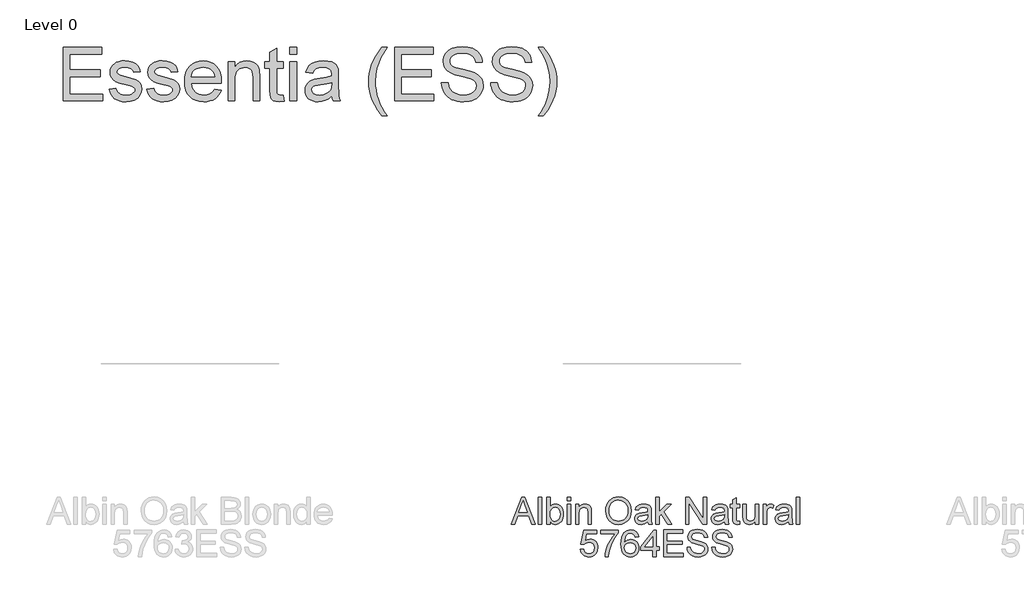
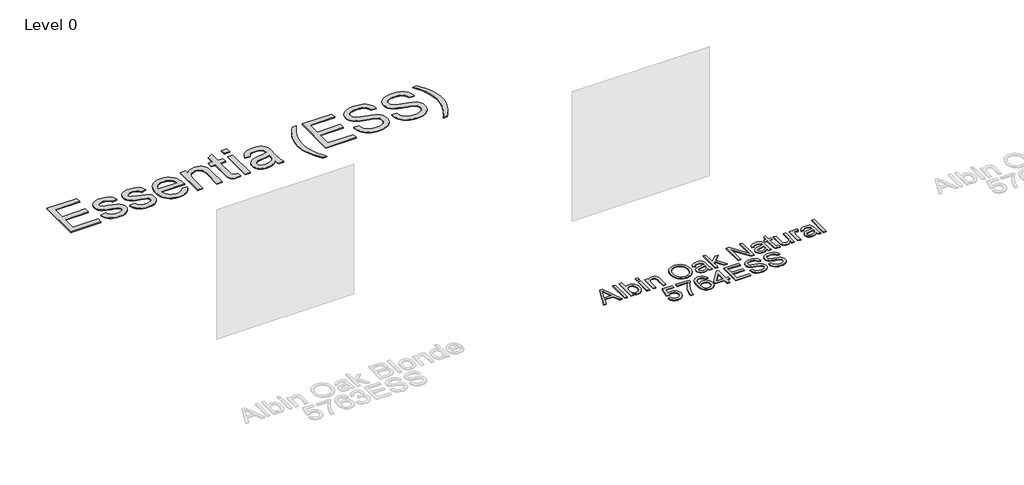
# One storey, part 36 of 43: 2 proxies.
"""IFC4 building model written with IfcOpenShell, lengths in millimetres."""

from ifc_helpers import new_model, si_unit, origin, origin_with_axes, place, context, project, spatial, polyline, outline, extrude, element, save

model = new_model("IFC4")

# Units and contexts
model_context = context("Model", 3, world=origin())
ifc_project = project(units=[si_unit("LENGTHUNIT", "METRE", prefix="MILLI")], contexts=[model_context])

# Site, building, storey
site = spatial("IfcSite", under=ifc_project)
building = spatial("IfcBuilding", under=site)
storey = spatial("IfcBuildingStorey", under=building, Name="Level 0", Elevation=0.0)

# Proxies
placement = place(None, origin())
element("IfcBuildingElementProxy", 1, Name="300mm Arial", ObjectType="300mm Arial", at=placement, inside=storey, context=model_context, shape_type="SweptSolid", body=[
    extrude(outline(polyline([(21163.2002138, -7003.860494), (21283.4976262, -6702.4915635), (21315.5769362, -6702.4915635), (21435.8743486, -7003.860494), (21396.0695167, -7003.860494), (21361.5621856, -6909.6827032), (21237.4388004, -6909.6827032), (21203.0050456, -7003.860494), (21163.2002138, -7003.860494)]), holes=[polyline([(21251.2711634, -6872.0115869), (21347.8033989, -6872.0115869), (21320.6537077, -6797.9201531), (21299.5372812, -6740.1626798), (21280.7752994, -6791.44543), (21251.2711634, -6872.0115869)])]), origin_with_axes(), (0.0, 0.0, 1.0), 10.0),
    extrude(outline(polyline([(21471.4117493, -7003.860494), (21471.4117493, -6702.4915635), (21509.0828656, -6702.4915635), (21509.0828656, -7003.860494), (21471.4117493, -7003.860494)])), origin_with_axes(), (0.0, 0.0, 1.0), 10.0),
    extrude(outline(polyline([(21603.2606564, -7003.860494), (21565.5895401, -7003.860494), (21565.5895401, -6702.4915635), (21603.2606564, -6702.4915635), (21603.2606564, -6814.2541137), (21615.6490826, -6798.3202248), (21629.6377954, -6786.9388755), (21645.226795, -6780.110066), (21662.4160812, -6777.8337961), (21681.8218565, -6779.8847383), (21700.1607739, -6786.0375646), (21716.3843699, -6795.9059992), (21729.4441807, -6809.1037657), (21739.6804972, -6825.5021057), (21747.4336103, -6844.9722603), (21752.3172438, -6866.7048891), (21753.9451216, -6889.8906519), (21752.2597622, -6916.64487), (21747.203684, -6940.1801206), (21738.7768871, -6960.4964038), (21726.9793714, -6977.5937195), (21712.8182138, -6991.1455725), (21697.3004914, -7000.8254675), (21680.4262041, -7006.6334045), (21662.195352, -7008.5693835), (21644.4404472, -7006.0723845), (21628.6996963, -6998.5813874), (21614.9730994, -6986.0963921), (21603.2606564, -6968.6173988), (21603.2606564, -7003.860494)]), holes=[polyline([(21603.2606564, -6891.6564855), (21605.8358303, -6923.0736078), (21613.5613522, -6944.3371872), (21622.6894243, -6955.9576597), (21633.2982213, -6964.2579972), (21645.3877434, -6969.2381997), (21658.9579905, -6970.8982672), (21680.6998164, -6966.0054367), (21699.2778571, -6951.3269451), (21712.0249683, -6926.9547629), (21716.2740053, -6892.9808606), (21712.1997122, -6858.5103177), (21699.9768329, -6834.414047), (21681.9782063, -6820.2321961), (21660.5766712, -6815.5049125), (21638.8348453, -6820.397743), (21620.2568046, -6835.0762346), (21607.5096934, -6859.0069584), (21603.2606564, -6891.6564855)])]), origin_with_axes(), (0.0, 0.0, 1.0), 10.0),
    extrude(outline(polyline([(21796.3251275, -6740.1626798), (21796.3251275, -6702.4915635), (21833.9962438, -6702.4915635), (21833.9962438, -6740.1626798), (21796.3251275, -6740.1626798)])), origin_with_axes(), (0.0, 0.0, 1.0), 10.0),
    extrude(outline(polyline([(21796.3251275, -7003.860494), (21796.3251275, -6782.5426857), (21833.9962438, -6782.5426857), (21833.9962438, -7003.860494), (21796.3251275, -7003.860494)])), origin_with_axes(), (0.0, 0.0, 1.0), 10.0),
    extrude(outline(polyline([(21890.5029182, -7003.860494), (21890.5029182, -6782.5426857), (21928.1740345, -6782.5426857), (21928.1740345, -6813.4447733), (21941.2614365, -6797.8649708), (21956.9791947, -6786.7365404), (21975.3273093, -6780.0594822), (21996.30578, -6777.8337961), (22014.8746237, -6779.6272209), (22031.879969, -6785.0074951), (22046.0618199, -6793.303234), (22056.1601806, -6803.8430532), (22067.4541579, -6831.5445674), (22069.4407207, -6867.964885), (22069.4407207, -7003.860494), (22031.7696044, -7003.860494), (22031.7696044, -6873.0416565), (22027.4285968, -6839.7115477), (22021.4229232, -6829.7879309), (22012.0879176, -6822.0900002), (22000.1225557, -6817.1511844), (21986.2258134, -6815.5049125), (21964.1620907, -6819.2021265), (21945.3541237, -6830.2937687), (21937.8378347, -6839.3482643), (21932.4690568, -6851.7228949), (21928.1740345, -6886.4325611), (21928.1740345, -7003.860494), (21890.5029182, -7003.860494)])), origin_with_axes(), (0.0, 0.0, 1.0), 10.0),
    extrude(outline(polyline([(22229.542965, -6857.1491543), (22232.0537596, -6821.8002931), (22239.5861434, -6790.5073309), (22252.1401165, -6763.2702677), (22269.7156788, -6740.0891034), (22291.2597682, -6721.5800406), (22315.7193223, -6708.3592814), (22343.0943413, -6700.4268258), (22373.3848251, -6697.782674), (22412.9137455, -6702.7490809), (22448.3591757, -6717.6483017), (22477.7897353, -6741.4318727), (22499.2740438, -6773.0513302), (22512.4074311, -6810.9799639), (22516.7852268, -6853.6910636), (22512.1775048, -6896.9723803), (22498.3543388, -6935.4344429), (22476.079084, -6967.1090827), (22446.1150955, -6990.028131), (22410.9731679, -7003.9340704), (22373.1640959, -7008.5693835), (22333.0281702, -7003.4466267), (22297.3804049, -6988.0783564), (22268.0234217, -6963.853327), (22246.7598423, -6932.1602931), (22233.8471843, -6895.6939903), (22229.542965, -6857.1491543)]), holes=[polyline([(22267.2140813, -6857.5170363), (22269.0971772, -6882.4916252), (22274.7464651, -6904.661114), (22284.1619449, -6924.0255025), (22297.3436167, -6940.5847908), (22313.3671768, -6953.8469367), (22331.3083219, -6963.3198981), (22351.1670518, -6969.0036749), (22372.9433667, -6970.8982672), (22395.0921621, -6968.9852808), (22415.1854168, -6963.2463217), (22433.2231309, -6953.6813898), (22449.2053043, -6940.2904852), (22462.290407, -6923.381709), (22471.6369089, -6903.2631624), (22477.2448101, -6879.9348454), (22479.1141105, -6853.396758), (22475.9135371, -6820.0482551), (22466.3118171, -6791.2247008), (22450.5572706, -6767.6526619), (22428.8982182, -6750.0587055), (22402.7693994, -6739.1050191), (22373.6055543, -6735.4537903), (22352.5856968, -6737.2127261), (22333.0833525, -6742.4895335), (22315.0985215, -6751.2842124), (22298.6312037, -6763.5967629), (22284.8862126, -6780.0203948), (22275.0683619, -6801.1483176), (22269.1776514, -6826.9805314), (22267.2140813, -6857.5170363)])]), origin_with_axes(), (0.0, 0.0, 1.0), 10.0),
    extrude(outline(polyline([(22705.1408083, -6975.6071568), (22687.1421817, -6991.0398064), (22668.6101262, -7001.1381672), (22649.1215775, -7006.7115794), (22628.2534713, -7008.5693835), (22596.7719696, -7004.0996173), (22573.5494187, -6990.6903186), (22559.229612, -6970.3280501), (22554.4563431, -6944.9993748), (22556.2589649, -6929.3827841), (22561.6668302, -6915.2009331), (22570.0085545, -6903.0608273), (22580.612753, -6893.5694718), (22606.989892, -6881.2086368), (22639.5842368, -6875.5432541), (22678.1014817, -6869.5835657), (22704.9200791, -6862.5938078), (22705.1408083, -6854.2060983), (22702.5472403, -6837.3938912), (22694.7665361, -6826.3942195), (22677.3657177, -6818.2272392), (22653.1222942, -6815.5049125), (22630.6814925, -6817.3167313), (22615.0097195, -6822.7521878), (22604.3227476, -6832.8045633), (22596.836349, -6848.4671392), (22559.1652326, -6843.7582497), (22565.7043351, -6823.156858), (22575.462405, -6806.9700502), (22589.3499504, -6794.590821), (22608.277479, -6785.4121652), (22631.4264536, -6779.7283884), (22657.9783366, -6777.8337961), (22683.4449677, -6779.5076592), (22703.6324922, -6784.5292485), (22718.8536097, -6792.0800264), (22729.42102, -6801.3414556), (22736.429172, -6812.7917827), (22740.9725147, -6826.9092543), (22742.8119246, -6859.8714811), (22742.8119246, -6906.7396473), (22744.724911, -6972.1858542), (22752.2297037, -7003.860494), (22714.5585874, -7003.860494), (22705.1408083, -6975.6071568)]), holes=[polyline([(22705.1408083, -6900.2649241), (22644.3667027, -6911.8164188), (22611.956299, -6917.9232599), (22597.2778073, -6927.8560738), (22592.1274594, -6942.3506244), (22594.9325596, -6953.5526311), (22603.3478603, -6962.7312869), (22617.1894203, -6968.8565221), (22636.2732988, -6970.8982672), (22656.5068086, -6968.64499), (22674.3858735, -6961.8851583), (22688.8804241, -6951.9247533), (22698.9603908, -6940.069756), (22703.4301571, -6927.8560738), (22704.9200791, -6910.933502), (22705.1408083, -6900.2649241)])]), origin_with_axes(), (0.0, 0.0, 1.0), 10.0),
    extrude(outline(polyline([(22794.6097096, -7003.860494), (22794.6097096, -6702.4915635), (22832.2808259, -6702.4915635), (22832.2808259, -6864.4332178), (22916.746532, -6782.5426857), (22968.8386225, -6782.5426857), (22883.3428468, -6865.4632874), (22973.547512, -7003.860494), (22929.5488254, -7003.860494), (22856.3403084, -6891.6564855), (22832.2808259, -6914.9802039), (22832.2808259, -7003.860494), (22794.6097096, -7003.860494)])), origin_with_axes(), (0.0, 0.0, 1.0), 10.0),
    extrude(outline(polyline([(23128.9408668, -7003.860494), (23128.9408668, -6702.4915635), (23169.2607335, -6702.4915635), (23326.7142274, -6941.2469784), (23326.7142274, -6702.4915635), (23364.3853437, -6702.4915635), (23364.3853437, -7003.860494), (23324.065477, -7003.860494), (23166.6119831, -6765.0315027), (23166.6119831, -7003.860494), (23128.9408668, -7003.860494)])), origin_with_axes(), (0.0, 0.0, 1.0), 10.0),
    extrude(outline(polyline([(23566.8675938, -6975.6071568), (23548.8689672, -6991.0398064), (23530.3369117, -7001.1381672), (23510.848363, -7006.7115794), (23489.9802568, -7008.5693835), (23458.4987551, -7004.0996173), (23435.2762042, -6990.6903186), (23420.9563975, -6970.3280501), (23416.1831286, -6944.9993748), (23417.9857504, -6929.3827841), (23423.3936157, -6915.2009331), (23431.73534, -6903.0608273), (23442.3395385, -6893.5694718), (23468.7166775, -6881.2086368), (23501.3110223, -6875.5432541), (23539.8282672, -6869.5835657), (23566.6468646, -6862.5938078), (23566.8675938, -6854.2060983), (23564.2740258, -6837.3938912), (23556.4933216, -6826.3942195), (23539.0925032, -6818.2272392), (23514.8490797, -6815.5049125), (23492.408278, -6817.3167313), (23476.736505, -6822.7521878), (23466.0495331, -6832.8045633), (23458.5631345, -6848.4671392), (23420.8920182, -6843.7582497), (23427.4311206, -6823.156858), (23437.1891905, -6806.9700502), (23451.0767359, -6794.590821), (23470.0042645, -6785.4121652), (23493.1532391, -6779.7283884), (23519.7051221, -6777.8337961), (23545.1717532, -6779.5076592), (23565.3592777, -6784.5292485), (23580.5803952, -6792.0800264), (23591.1478055, -6801.3414556), (23598.1559575, -6812.7917827), (23602.6993002, -6826.9092543), (23604.5387101, -6859.8714811), (23604.5387101, -6906.7396473), (23606.4516965, -6972.1858542), (23613.9564892, -7003.860494), (23576.2853729, -7003.860494), (23566.8675938, -6975.6071568)]), holes=[polyline([(23566.8675938, -6900.2649241), (23506.0934882, -6911.8164188), (23473.6830845, -6917.9232599), (23459.0045929, -6927.8560738), (23453.8542449, -6942.3506244), (23456.6593451, -6953.5526311), (23465.0746458, -6962.7312869), (23478.9162058, -6968.8565221), (23498.0000843, -6970.8982672), (23518.2335941, -6968.64499), (23536.112659, -6961.8851583), (23550.6072097, -6951.9247533), (23560.6871763, -6940.069756), (23565.1569426, -6927.8560738), (23566.6468646, -6910.933502), (23566.8675938, -6900.2649241)])]), origin_with_axes(), (0.0, 0.0, 1.0), 10.0),
    extrude(outline(polyline([(23736.3876172, -6972.4433716), (23741.0965068, -7004.96414), (23712.9167459, -7008.5693835), (23694.8353459, -7007.005885), (23681.3524707, -7002.3153896), (23671.8243271, -6995.0865084), (23665.6071213, -6985.9078526), (23662.1858188, -6970.1441091), (23661.0453846, -6943.1599648), (23661.0453846, -6820.213802), (23632.7920474, -6820.213802), (23632.7920474, -6782.5426857), (23661.0453846, -6782.5426857), (23661.0453846, -6728.758338), (23698.7165009, -6706.6118419), (23698.7165009, -6782.5426857), (23736.3876172, -6782.5426857), (23736.3876172, -6820.213802), (23698.7165009, -6820.213802), (23698.7165009, -6942.0563188), (23700.7030637, -6961.4804881), (23707.1409986, -6968.3598814), (23719.9800802, -6970.8982672), (23736.3876172, -6972.4433716)])), origin_with_axes(), (0.0, 0.0, 1.0), 10.0),
    extrude(outline(polyline([(23915.3254197, -7003.860494), (23915.3254197, -6965.8214957), (23901.6953917, -6984.5236966), (23885.8212837, -6997.8824116), (23867.7030954, -7005.8976405), (23847.340827, -7008.5693835), (23828.9927125, -7006.6931853), (23811.9137908, -7001.0645908), (23797.5847871, -6992.6033049), (23787.4864263, -6982.2290327), (23776.2660255, -6954.4907302), (23774.0587335, -6919.4683643), (23774.0587335, -6782.5426857), (23811.7298498, -6782.5426857), (23811.7298498, -6901.7364521), (23814.0107182, -6940.1433324), (23819.501357, -6952.9548229), (23828.909939, -6962.6944987), (23841.6110649, -6968.8473251), (23856.9793352, -6970.8982672), (23873.2305224, -6968.8013398), (23888.4332458, -6962.5105577), (23900.9688248, -6952.605335), (23909.2185785, -6939.6650858), (23913.7987094, -6921.9423707), (23915.3254197, -6897.6897502), (23915.3254197, -6782.5426857), (23952.996536, -6782.5426857), (23952.996536, -7003.860494), (23915.3254197, -7003.860494)])), origin_with_axes(), (0.0, 0.0, 1.0), 10.0),
    extrude(outline(polyline([(24004.7943209, -7003.860494), (24004.7943209, -6782.5426857), (24037.7565477, -6782.5426857), (24037.7565477, -6815.2841833), (24049.9334417, -6796.3014723), (24061.1538426, -6785.1178596), (24072.4110316, -6779.654812), (24084.6982902, -6777.8337961), (24103.460272, -6780.7400639), (24122.5165594, -6789.4588672), (24109.9349951, -6823.2304343), (24096.6912433, -6817.4362929), (24083.4474915, -6815.5049125), (24072.1994995, -6817.3627165), (24062.1471239, -6822.9361288), (24054.0261289, -6831.8020848), (24048.5722783, -6843.5375205), (24043.9921475, -6864.5803706), (24042.4654372, -6887.5362071), (24042.4654372, -7003.860494), (24004.7943209, -7003.860494)])), origin_with_axes(), (0.0, 0.0, 1.0), 10.0),
    extrude(outline(polyline([(24287.3276932, -6975.6071568), (24269.3290666, -6991.0398064), (24250.7970111, -7001.1381672), (24231.3084624, -7006.7115794), (24210.4403562, -7008.5693835), (24178.9588545, -7004.0996173), (24155.7363035, -6990.6903186), (24141.4164969, -6970.3280501), (24136.643228, -6944.9993748), (24138.4458497, -6929.3827841), (24143.8537151, -6915.2009331), (24152.1954393, -6903.0608273), (24162.7996378, -6893.5694718), (24189.1767769, -6881.2086368), (24221.7711217, -6875.5432541), (24260.2883665, -6869.5835657), (24287.106964, -6862.5938078), (24287.3276932, -6854.2060983), (24284.7341251, -6837.3938912), (24276.9534209, -6826.3942195), (24259.5526026, -6818.2272392), (24235.3091791, -6815.5049125), (24212.8683774, -6817.3167313), (24197.1966044, -6822.7521878), (24186.5096324, -6832.8045633), (24179.0232338, -6848.4671392), (24141.3521175, -6843.7582497), (24147.89122, -6823.156858), (24157.6492899, -6806.9700502), (24171.5368352, -6794.590821), (24190.4643639, -6785.4121652), (24213.6133384, -6779.7283884), (24240.1652214, -6777.8337961), (24265.6318525, -6779.5076592), (24285.819377, -6784.5292485), (24301.0404946, -6792.0800264), (24311.6079049, -6801.3414556), (24318.6160569, -6812.7917827), (24323.1593995, -6826.9092543), (24324.9988095, -6859.8714811), (24324.9988095, -6906.7396473), (24326.9117959, -6972.1858542), (24334.4165886, -7003.860494), (24296.7454723, -7003.860494), (24287.3276932, -6975.6071568)]), holes=[polyline([(24287.3276932, -6900.2649241), (24226.5535876, -6911.8164188), (24194.1431838, -6917.9232599), (24179.4646922, -6927.8560738), (24174.3143443, -6942.3506244), (24177.1194445, -6953.5526311), (24185.5347451, -6962.7312869), (24199.3763052, -6968.8565221), (24218.4601837, -6970.8982672), (24238.6936934, -6968.64499), (24256.5727584, -6961.8851583), (24271.067309, -6951.9247533), (24281.1472757, -6940.069756), (24285.6170419, -6927.8560738), (24287.106964, -6910.933502), (24287.3276932, -6900.2649241)])]), origin_with_axes(), (0.0, 0.0, 1.0), 10.0),
    extrude(outline(polyline([(24376.7965944, -7003.860494), (24376.7965944, -6702.4915635), (24414.4677107, -6702.4915635), (24414.4677107, -7003.860494), (24376.7965944, -7003.860494)])), origin_with_axes(), (0.0, 0.0, 1.0), 10.0),
    extrude(outline(polyline([(21944.6551479, -7289.7338254), (21982.3262642, -7285.0249358), (21989.2424457, -7307.6404815), (22001.3089752, -7323.8364863), (22018.4706702, -7333.5761621), (22040.6723486, -7336.8227207), (22067.6748871, -7332.3069693), (22087.9083968, -7318.7597148), (22100.5451434, -7297.7444558), (22104.7573922, -7270.8246908), (22100.8118578, -7245.4776213), (22088.9752546, -7226.0902402), (22069.1556121, -7213.7845875), (22041.2609598, -7209.6827032), (22022.9864217, -7211.3197781), (22008.1883685, -7216.2310027), (21987.0351538, -7233.2271509), (21949.3640374, -7228.5182614), (21982.3262642, -7073.1249066), (22128.3018399, -7073.1249066), (22128.3018399, -7110.7960229), (22012.7868934, -7110.7960229), (21996.673662, -7193.790201), (22023.58423, -7177.4562404), (22051.7823849, -7172.0115869), (22070.1282001, -7173.6992456), (22086.9794948, -7178.7622215), (22102.3362688, -7187.2005148), (22116.1985223, -7199.0141254), (22127.6741412, -7213.4810848), (22135.8710119, -7229.8794248), (22140.7891344, -7248.2091452), (22142.4285085, -7268.470246), (22136.5240025, -7306.1413624), (22129.14337, -7322.9351754), (22118.8104844, -7338.3678251), (22103.1571055, -7354.1729553), (22084.8917645, -7365.4623341), (22064.0144612, -7372.2359613), (22040.5251958, -7374.4938371), (22003.5254642, -7368.6904986), (21987.8467934, -7361.4363255), (21974.0489193, -7351.2804832), (21962.5687018, -7338.7288093), (21953.8430007, -7324.2871418), (21944.6551479, -7289.7338254)])), origin_with_axes(), (0.0, 0.0, 1.0), 10.0),
    extrude(outline(polyline([(22175.3907353, -7110.7960229), (22175.3907353, -7073.1249066), (22373.1640959, -7073.1249066), (22373.1640959, -7103.5855358), (22344.975138, -7139.2608923), (22317.0620916, -7184.6299393), (22292.4415891, -7235.5540045), (22274.1302628, -7287.8944154), (22265.1539421, -7327.0554538), (22260.150747, -7369.7849475), (22222.4796307, -7369.7849475), (22226.5539238, -7330.9550029), (22237.4524279, -7284.8042066), (22254.8808374, -7235.8850983), (22278.5448467, -7188.7502177), (22306.1727846, -7146.1402856), (22335.4929796, -7110.7960229), (22175.3907353, -7110.7960229)])), origin_with_axes(), (0.0, 0.0, 1.0), 10.0),
    extrude(outline(polyline([(22599.1907937, -7148.4671392), (22561.5196774, -7153.1760288), (22555.4496245, -7134.5060175), (22547.245856, -7121.7589064), (22530.1577373, -7110.0050766), (22509.5011633, -7106.0871334), (22491.9899803, -7108.3680017), (22475.5088669, -7115.2106069), (22461.3546072, -7129.622384), (22449.7939155, -7149.4604206), (22441.9856201, -7177.5206198), (22439.0885494, -7216.5988847), (22454.1993024, -7198.9681401), (22472.3082936, -7186.5429257), (22492.4038476, -7179.1760888), (22513.4742888, -7176.7204764), (22531.574083, -7178.3989381), (22548.2759256, -7183.4343229), (22563.5798166, -7191.8266309), (22577.485756, -7203.5758621), (22589.0418492, -7217.9830407), (22597.2962014, -7234.349191), (22602.2488128, -7252.6743129), (22603.8996833, -7272.9584064), (22600.7910804, -7299.9333537), (22591.4652718, -7324.9401323), (22576.6948097, -7346.1485293), (22557.2522463, -7361.7283318), (22534.0204983, -7371.3024607), (22507.8824825, -7374.4938371), (22485.425586, -7372.3785156), (22465.1437917, -7366.0325512), (22447.0370998, -7355.4559438), (22431.1055101, -7340.6486935), (22418.1169764, -7320.9854009), (22408.8394524, -7295.8406665), (22403.2729379, -7265.2144904), (22401.4174331, -7229.1068726), (22403.4775723, -7188.6260575), (22409.6579898, -7154.0773396), (22419.9586857, -7125.4607189), (22434.3796599, -7102.7761954), (22450.0100462, -7087.7436174), (22468.1328329, -7077.0060617), (22488.7480202, -7070.5635282), (22511.8556081, -7068.4160171), (22544.9098053, -7073.7319119), (22571.3789149, -7089.6795964), (22589.9201674, -7115.0082718), (22599.1907937, -7148.4671392)]), holes=[polyline([(22439.0885494, -7272.3697952), (22441.2682502, -7289.0624407), (22447.8073527, -7305.0009282), (22457.9608958, -7318.7045325), (22470.9839184, -7328.6925287), (22486.7016766, -7334.7901727), (22504.9394266, -7336.8227207), (22529.7990524, -7332.6104719), (22549.3427834, -7319.9737254), (22562.0071211, -7300.1080976), (22566.228567, -7274.2092052), (22562.0623034, -7249.3495793), (22549.5635126, -7230.3944595), (22529.6886878, -7218.3923095), (22503.3943222, -7214.3915928), (22478.5714846, -7218.3923095), (22457.813743, -7230.3944595), (22443.7698478, -7248.8897269), (22439.0885494, -7272.3697952)])]), origin_with_axes(), (0.0, 0.0, 1.0), 10.0),
    extrude(outline(polyline([(22759.293038, -7369.7849475), (22759.293038, -7299.1516044), (22622.7352414, -7299.1516044), (22622.7352414, -7261.4804881), (22768.7108171, -7073.1249066), (22796.9641543, -7073.1249066), (22796.9641543, -7261.4804881), (22834.6352706, -7261.4804881), (22834.6352706, -7299.1516044), (22796.9641543, -7299.1516044), (22796.9641543, -7369.7849475), (22759.293038, -7369.7849475)]), holes=[polyline([(22759.293038, -7261.4804881), (22759.293038, -7145.0826249), (22669.0883728, -7261.4804881), (22759.293038, -7261.4804881)])]), origin_with_axes(), (0.0, 0.0, 1.0), 10.0),
    extrude(outline(polyline([(22881.724166, -7369.7849475), (22881.724166, -7068.4160171), (23098.3330848, -7068.4160171), (23098.3330848, -7106.0871334), (22919.3952823, -7106.0871334), (22919.3952823, -7195.5560346), (23088.9153057, -7195.5560346), (23088.9153057, -7233.2271509), (22919.3952823, -7233.2271509), (22919.3952823, -7332.1138312), (23103.0419743, -7332.1138312), (23103.0419743, -7369.7849475), (22881.724166, -7369.7849475)])), origin_with_axes(), (0.0, 0.0, 1.0), 10.0),
    extrude(outline(polyline([(23145.4219802, -7266.1893777), (23183.0930965, -7266.1893777), (23187.4157099, -7287.0942721), (23195.2332023, -7303.8972822), (23207.4284905, -7317.2330045), (23224.8844911, -7327.7360355), (23246.2216468, -7334.5510494), (23270.0604001, -7336.8227207), (23291.048068, -7335.1028724), (23309.4237736, -7329.9433274), (23324.3137974, -7321.7763471), (23334.8444195, -7311.0341929), (23341.1076104, -7298.700949), (23343.1953408, -7285.7606998), (23341.6318423, -7273.1515444), (23336.9413469, -7262.2530403), (23327.4132032, -7252.9548229), (23311.33676, -7245.1465276), (23256.4855545, -7230.7623415), (23220.4791042, -7221.2433949), (23197.4404943, -7212.1843008), (23178.6877096, -7199.510766), (23165.3979725, -7184.1516928), (23157.4793126, -7166.4381747), (23154.8397592, -7146.7013056), (23158.1047119, -7124.637583), (23167.8995701, -7104.0637824), (23183.9668162, -7086.6261758), (23206.048933, -7073.9710352), (23232.5548307, -7066.2731044), (23261.8934198, -7063.7071275), (23293.6784242, -7066.3926661), (23321.4903031, -7074.4492818), (23344.335775, -7087.7114277), (23361.2215585, -7106.013557), (23371.9085305, -7128.2152354), (23376.1575675, -7153.1760288), (23338.4864512, -7153.1760288), (23331.5702697, -7130.6984389), (23317.1492955, -7114.4748429), (23294.6165233, -7104.6523936), (23263.3649478, -7101.3782438), (23231.3776083, -7104.6156054), (23209.4334473, -7114.3276901), (23196.7415185, -7128.6199056), (23192.5108755, -7145.5976597), (23195.5091138, -7160.0738162), (23204.5038286, -7171.7172813), (23225.7674079, -7182.1283418), (23266.0136982, -7192.7601314), (23307.5475754, -7202.8584922), (23332.6739157, -7211.669266), (23354.1490272, -7225.3360821), (23369.1310214, -7242.2034716), (23377.9325982, -7262.0874934), (23380.8664571, -7284.8042066), (23377.4911398, -7308.0267576), (23367.3651879, -7329.869751), (23350.9024686, -7348.668521), (23328.5168492, -7362.7584014), (23301.5970842, -7371.5599781), (23271.5319281, -7374.4938371), (23234.6241669, -7371.3300519), (23204.2463112, -7361.8386964), (23180.048873, -7345.9829824), (23161.6823644, -7323.7261217), (23149.8917464, -7296.6132187), (23145.4219802, -7266.1893777)])), origin_with_axes(), (0.0, 0.0, 1.0), 10.0),
    extrude(outline(polyline([(23423.2464629, -7266.1893777), (23460.9175792, -7266.1893777), (23465.2401927, -7287.0942721), (23473.0576851, -7303.8972822), (23485.2529732, -7317.2330045), (23502.7089739, -7327.7360355), (23524.0461296, -7334.5510494), (23547.8848829, -7336.8227207), (23568.8725507, -7335.1028724), (23587.2482564, -7329.9433274), (23602.1382801, -7321.7763471), (23612.6689022, -7311.0341929), (23618.9320932, -7298.700949), (23621.0198235, -7285.7606998), (23619.456325, -7273.1515444), (23614.7658296, -7262.2530403), (23605.2376859, -7252.9548229), (23589.1612427, -7245.1465276), (23534.3100373, -7230.7623415), (23498.303587, -7221.2433949), (23475.264977, -7212.1843008), (23456.5121923, -7199.510766), (23443.2224553, -7184.1516928), (23435.3037953, -7166.4381747), (23432.664242, -7146.7013056), (23435.9291947, -7124.637583), (23445.7240528, -7104.0637824), (23461.791299, -7086.6261758), (23483.8734157, -7073.9710352), (23510.3793135, -7066.2731044), (23539.7179026, -7063.7071275), (23571.502907, -7066.3926661), (23599.3147858, -7074.4492818), (23622.1602577, -7087.7114277), (23639.0460413, -7106.013557), (23649.7330133, -7128.2152354), (23653.9820503, -7153.1760288), (23616.310934, -7153.1760288), (23609.3947525, -7130.6984389), (23594.9737783, -7114.4748429), (23572.4410061, -7104.6523936), (23541.1894306, -7101.3782438), (23509.2020911, -7104.6156054), (23487.2579301, -7114.3276901), (23474.5660012, -7128.6199056), (23470.3353583, -7145.5976597), (23473.3335966, -7160.0738162), (23482.3283113, -7171.7172813), (23503.5918907, -7182.1283418), (23543.8381809, -7192.7601314), (23585.3720582, -7202.8584922), (23610.4983985, -7211.669266), (23631.9735099, -7225.3360821), (23646.9555042, -7242.2034716), (23655.7570809, -7262.0874934), (23658.6909398, -7284.8042066), (23655.3156225, -7308.0267576), (23645.1896706, -7329.869751), (23628.7269513, -7348.668521), (23606.3413319, -7362.7584014), (23579.4215669, -7371.5599781), (23549.3564109, -7374.4938371), (23512.4486497, -7371.3300519), (23482.0707939, -7361.8386964), (23457.8733557, -7345.9829824), (23439.5068471, -7323.7261217), (23427.7162292, -7296.6132187), (23423.2464629, -7266.1893777)])), origin_with_axes(), (0.0, 0.0, 1.0), 10.0),
])
element("IfcBuildingElementProxy", 2, Name="600mm Arial", ObjectType="600mm Arial", at=placement, inside=storey, context=model_context, shape_type="SweptSolid", body=[
    extrude(outline(polyline([(16122.5368148, -2239.8720473), (16122.5368148, -1637.1341864), (16555.7546523, -1637.1341864), (16555.7546523, -1712.476419), (16197.8790474, -1712.476419), (16197.8790474, -1891.4142215), (16536.9190941, -1891.4142215), (16536.9190941, -1966.7564541), (16197.8790474, -1966.7564541), (16197.8790474, -2164.5298147), (16565.1724314, -2164.5298147), (16565.1724314, -2239.8720473), (16122.5368148, -2239.8720473)])), origin_with_axes(), (0.0, 0.0, 1.0), 10.0),
    extrude(outline(polyline([(16640.514664, -2108.0231403), (16715.8568966, -2098.6053612), (16720.4094363, -2115.7854504), (16727.739485, -2130.831824), (16737.8470428, -2143.744482), (16750.7321097, -2154.5234244), (16766.4314739, -2163.0214985), (16784.9819235, -2169.0915515), (16830.6360791, -2173.9475938), (16875.7384117, -2169.4962217), (16893.2679888, -2163.9320065), (16907.4498397, -2156.1421052), (16926.2118214, -2136.7915123), (16930.9023169, -2125.9573875), (16932.4658153, -2114.3507106), (16930.8931198, -2104.1787734), (16926.1750332, -2095.1472704), (16907.3026869, -2080.505567), (16879.0861378, -2070.9406351), (16829.7531623, -2059.0212585), (16760.9960174, -2039.1372367), (16716.298355, -2022.1594826), (16687.5851653, -2003.6366241), (16666.7814384, -1979.1172891), (16654.1446919, -1950.1649761), (16649.932443, -1918.3431835), (16653.3169574, -1889.1517472), (16663.4705005, -1862.2043911), (16679.4733673, -1838.5679729), (16700.4058528, -1819.3093504), (16721.2095796, -1807.1876387), (16748.3040886, -1797.0157015), (16779.6292404, -1790.1179141), (16813.1248961, -1787.8186517), (16862.1635661, -1791.5158657), (16904.8010893, -1802.6075079), (16939.0876913, -1820.0083262), (16963.0735973, -1842.6330689), (16978.9660995, -1872.1555991), (16988.9724898, -1910.2497797), (16913.6302572, -1919.6675587), (16904.1205076, -1895.9575641), (16885.3033436, -1878.0968933), (16856.994824, -1866.8948865), (16819.011008, -1863.1608843), (16775.7480854, -1866.7293396), (16746.906137, -1877.4347057), (16730.682541, -1892.8857495), (16725.2746757, -1910.691238), (16727.5187558, -1922.2795209), (16734.2509963, -1932.617005), (16745.7657028, -1941.850843), (16762.3571808, -1949.2452711), (16827.2515647, -1965.2849261), (16937.8368925, -2000.7487505), (16967.0467229, -2017.7081104), (16989.193219, -2040.9214643), (17003.1543407, -2070.4623886), (17007.808048, -2106.4044595), (17002.3450003, -2143.560541), (16985.9558574, -2178.5093305), (16959.2660187, -2208.5101072), (16922.9008835, -2230.8221502), (16878.9757732, -2244.6729074), (16829.6060095, -2249.2898264), (16789.0562166, -2247.0641403), (16753.6383775, -2240.3870821), (16723.3524922, -2229.2586518), (16698.1985608, -2213.6788493), (16677.6523514, -2193.721251), (16661.1896321, -2169.4594335), (16648.810403, -2140.8933965), (16640.514664, -2108.0231403)])), origin_with_axes(), (0.0, 0.0, 1.0), 10.0),
    extrude(outline(polyline([(17064.3147224, -2108.0231403), (17139.656955, -2098.6053612), (17144.2094947, -2115.7854504), (17151.5395435, -2130.831824), (17161.6471013, -2143.744482), (17174.5321682, -2154.5234244), (17190.2315323, -2163.0214985), (17208.7819819, -2169.0915515), (17254.4361375, -2173.9475938), (17299.5384701, -2169.4962217), (17317.0680472, -2163.9320065), (17331.2498981, -2156.1421052), (17350.0118799, -2136.7915123), (17354.7023753, -2125.9573875), (17356.2658738, -2114.3507106), (17354.6931783, -2104.1787734), (17349.9750917, -2095.1472704), (17331.1027453, -2080.505567), (17302.8861963, -2070.9406351), (17253.5532207, -2059.0212585), (17184.7960758, -2039.1372367), (17140.0984134, -2022.1594826), (17111.3852237, -2003.6366241), (17090.5814969, -1979.1172891), (17077.9447503, -1950.1649761), (17073.7325015, -1918.3431835), (17077.1170158, -1889.1517472), (17087.2705589, -1862.2043911), (17103.2734257, -1838.5679729), (17124.2059112, -1819.3093504), (17145.0096381, -1807.1876387), (17172.104147, -1797.0157015), (17203.4292989, -1790.1179141), (17236.9249545, -1787.8186517), (17285.9636245, -1791.5158657), (17328.6011477, -1802.6075079), (17362.8877497, -1820.0083262), (17386.8736558, -1842.6330689), (17402.766158, -1872.1555991), (17412.7725482, -1910.2497797), (17337.4303156, -1919.6675587), (17327.9205661, -1895.9575641), (17309.103402, -1878.0968933), (17280.7948825, -1866.8948865), (17242.8110665, -1863.1608843), (17199.5481438, -1866.7293396), (17170.7061954, -1877.4347057), (17154.4825994, -1892.8857495), (17149.0747341, -1910.691238), (17151.3188143, -1922.2795209), (17158.0510548, -1932.617005), (17169.5657612, -1941.850843), (17186.1572392, -1949.2452711), (17251.0516232, -1965.2849261), (17361.6369509, -2000.7487505), (17390.8467813, -2017.7081104), (17412.9932774, -2040.9214643), (17426.9543992, -2070.4623886), (17431.6081064, -2106.4044595), (17426.1450588, -2143.560541), (17409.7559159, -2178.5093305), (17383.0660771, -2208.5101072), (17346.7009419, -2230.8221502), (17302.7758317, -2244.6729074), (17253.4060679, -2249.2898264), (17212.856275, -2247.0641403), (17177.4384359, -2240.3870821), (17147.1525507, -2229.2586518), (17121.9986193, -2213.6788493), (17101.4524098, -2193.721251), (17084.9896905, -2169.4594335), (17072.6104614, -2140.8933965), (17064.3147224, -2108.0231403)])), origin_with_axes(), (0.0, 0.0, 1.0), 10.0),
    extrude(outline(polyline([(17826.2719108, -2108.0231403), (17900.1426155, -2117.4409193), (17888.8164485, -2147.0278288), (17873.5263531, -2173.1014652), (17854.2723292, -2195.6618286), (17831.0543768, -2214.7089189), (17804.1116191, -2229.8380659), (17773.6831796, -2240.6445995), (17739.7690582, -2247.1285197), (17702.3692548, -2249.2898264), (17655.6206503, -2245.5604227), (17613.9672114, -2234.3722115), (17577.4089381, -2215.7251929), (17545.9458305, -2189.6193668), (17520.6447463, -2156.7813002), (17502.5725433, -2117.93756), (17491.7292215, -2073.0881463), (17488.1147809, -2022.233059), (17491.7660097, -1969.6535248), (17502.7196961, -1923.3095905), (17520.9758401, -1883.201256), (17546.5344417, -1849.3285212), (17577.9147759, -1822.4179533), (17613.6361176, -1803.1961191), (17653.6984669, -1791.6630185), (17698.1018237, -1787.8186517), (17741.0750393, -1791.6538215), (17779.9371735, -1803.1593309), (17814.6882265, -1822.3351799), (17845.3281982, -1849.1813685), (17870.3395753, -1882.9805268), (17888.2048447, -1923.0152849), (17898.9240063, -1969.2856428), (17902.4970602, -2021.7916006), (17902.0556018, -2042.0986867), (17563.4570135, -2042.0986867), (17567.8210136, -2072.1638428), (17576.4984302, -2098.4949966), (17589.4892632, -2121.0921481), (17606.7935125, -2139.9552974), (17627.4546851, -2154.8269271), (17650.5162876, -2165.4495197), (17675.9783202, -2171.8230753), (17703.8407828, -2173.9475938), (17743.9399203, -2170.0112564), (17777.7114875, -2158.2022444), (17805.1554843, -2137.7847937), (17826.2719108, -2108.0231403)]), holes=[polyline([(17563.4570135, -1966.7564541), (17827.1548276, -1966.7564541), (17816.9644963, -1926.9516222), (17808.1997078, -1911.2982433), (17796.988504, -1898.4775558), (17776.4422946, -1883.026512), (17753.0633938, -1871.9900522), (17726.8518016, -1865.3681762), (17697.8075181, -1863.1608843), (17671.3154159, -1864.9221193), (17647.0214087, -1870.2058245), (17624.9254963, -1879.0119997), (17605.0276789, -1891.3406451), (17588.3304349, -1906.6215435), (17575.8362426, -1924.2844778), (17567.5451021, -1944.329448), (17563.4570135, -1966.7564541)])]), origin_with_axes(), (0.0, 0.0, 1.0), 10.0),
    extrude(outline(polyline([(17977.8392928, -2239.8720473), (17977.8392928, -1797.2364307), (18053.1815254, -1797.2364307), (18053.1815254, -1859.0406059), (18079.3563294, -1827.8810009), (18110.7918459, -1805.6241402), (18147.4880749, -1792.2700238), (18189.4450165, -1787.8186517), (18226.5827039, -1791.4055011), (18260.5933943, -1802.1660495), (18288.9570962, -1818.7575275), (18309.1538177, -1839.8371658), (18322.857422, -1865.3497821), (18331.7417722, -1895.2401942), (18335.7148977, -1968.0808293), (18335.7148977, -2239.8720473), (18260.3726651, -2239.8720473), (18260.3726651, -1978.2343724), (18258.2021614, -1939.2756691), (18251.69065, -1911.5741548), (18239.6793029, -1891.7269212), (18221.0092916, -1876.3310597), (18197.0785679, -1866.4534281), (18169.2850831, -1863.1608843), (18146.4074215, -1865.0094913), (18125.1576378, -1870.5553124), (18105.5357319, -1879.7983475), (18087.5417038, -1892.7385967), (18072.5091258, -1910.8475879), (18061.77157, -1935.5968491), (18055.3290366, -1966.9863804), (18053.1815254, -2005.0161816), (18053.1815254, -2239.8720473), (17977.8392928, -2239.8720473)])), origin_with_axes(), (0.0, 0.0, 1.0), 10.0),
    extrude(outline(polyline([(18599.4127119, -2177.0378026), (18608.830491, -2242.0793393), (18552.4709693, -2249.2898264), (18516.3081692, -2246.1628294), (18489.3424189, -2236.7818386), (18470.2861316, -2222.3240762), (18457.8517201, -2203.9667646), (18451.009115, -2172.4392776), (18448.7282467, -2118.4709889), (18448.7282467, -1872.5786633), (18392.2215722, -1872.5786633), (18392.2215722, -1797.2364307), (18448.7282467, -1797.2364307), (18448.7282467, -1689.6677353), (18524.0704793, -1645.3747431), (18524.0704793, -1797.2364307), (18599.4127119, -1797.2364307), (18599.4127119, -1872.5786633), (18524.0704793, -1872.5786633), (18524.0704793, -2116.2636969), (18528.0436048, -2155.1120356), (18540.9194747, -2168.8708223), (18551.7903876, -2172.6784009), (18566.5976379, -2173.9475938), (18599.4127119, -2177.0378026)])), origin_with_axes(), (0.0, 0.0, 1.0), 10.0),
    extrude(outline(polyline([(18674.7549445, -1712.476419), (18674.7549445, -1637.1341864), (18750.0971771, -1637.1341864), (18750.0971771, -1712.476419), (18674.7549445, -1712.476419)])), origin_with_axes(), (0.0, 0.0, 1.0), 10.0),
    extrude(outline(polyline([(18674.7549445, -2239.8720473), (18674.7549445, -1797.2364307), (18750.0971771, -1797.2364307), (18750.0971771, -2239.8720473), (18674.7549445, -2239.8720473)])), origin_with_axes(), (0.0, 0.0, 1.0), 10.0),
    extrude(outline(polyline([(19145.6438983, -2183.3653729), (19109.6466451, -2214.2306723), (19072.5825341, -2234.4273938), (19033.6054367, -2245.5742183), (18991.8692243, -2249.2898264), (18958.3229849, -2247.0549433), (18928.9062209, -2240.3502939), (18903.6189322, -2229.1758783), (18882.461119, -2213.5316965), (18865.7546779, -2194.4110298), (18853.8215056, -2172.8071596), (18846.6616023, -2148.720086), (18844.2749679, -2122.1498089), (18847.8802114, -2090.9166275), (18858.6959421, -2062.5529257), (18875.3793906, -2038.272714), (18896.5877876, -2019.290003), (18921.5117928, -2004.9426052), (18949.3420657, -1994.5683329), (19014.5307552, -1983.2375675), (19091.565245, -1971.3181908), (19145.2024399, -1957.338675), (19145.6438983, -1940.5632561), (19140.4567622, -1906.9388417), (19133.972842, -1894.4860362), (19124.8953538, -1884.9394984), (19109.2051867, -1875.4113547), (19090.0937171, -1868.6055378), (19041.6068701, -1863.1608843), (18996.7252667, -1866.7845219), (18965.3817207, -1877.6554349), (18944.0077768, -1897.7601859), (18929.0349796, -1929.0853378), (18853.692747, -1919.6675587), (18866.7709519, -1878.4647753), (18886.2870917, -1846.0911597), (18914.0621824, -1821.3327014), (18951.9172397, -1802.9753899), (18998.2151888, -1791.6078362), (19051.3189548, -1787.8186517), (19102.252217, -1791.1663778), (19142.627266, -1801.2095563), (19173.0695011, -1816.3111122), (19194.2043217, -1834.8339706), (19208.2206257, -1857.7346248), (19217.307311, -1885.969568), (19220.9861309, -1951.8940215), (19220.9861309, -2045.6303539), (19224.8121037, -2176.5227678), (19230.4774864, -2208.8779892), (19239.8216891, -2239.8720473), (19164.4794565, -2239.8720473), (19152.412927, -2213.6788493), (19145.6438983, -2183.3653729)]), holes=[polyline([(19145.6438983, -2032.6809076), (19095.0233358, -2045.2256837), (19024.0956871, -2055.7838969), (18959.2748796, -2067.9975792), (18942.4074901, -2076.3485005), (18929.9178964, -2087.8632069), (18922.1923745, -2101.6587817), (18919.6172005, -2116.8523081), (18925.2274009, -2139.2563216), (18942.0580022, -2157.6136332), (18969.7411223, -2169.8641036), (19007.9088793, -2173.9475938), (19048.3758988, -2169.4410394), (19084.1340287, -2155.921376), (19113.12313, -2136.000566), (19133.2830633, -2112.2905714), (19142.2225958, -2087.8632069), (19145.2024399, -2054.0180634), (19145.6438983, -2032.6809076)])]), origin_with_axes(), (0.0, 0.0, 1.0), 10.0),
    extrude(outline(polyline([(19710.7106429, -2409.3920707), (19680.295999, -2370.0378943), (19652.3277703, -2327.4647504), (19626.8059569, -2281.672639), (19603.7305587, -2232.6615602), (19584.609892, -2181.5811452), (19570.9522729, -2129.5810252), (19562.7577015, -2076.6612002), (19560.0261777, -2022.8216702), (19562.0679228, -1975.5028485), (19568.193158, -1929.1957024), (19578.4018833, -1883.9002317), (19592.6940989, -1839.6164366), (19614.4175307, -1788.8303271), (19641.3280986, -1738.1545823), (19673.4258027, -1687.5892021), (19710.7106429, -1637.1341864), (19767.2173174, -1637.1341864), (19722.887537, -1708.7608109), (19696.7311271, -1756.4751057), (19672.6716446, -1813.1289329), (19654.3511213, -1872.137205), (19640.114088, -1947.5162258), (19635.3684103, -2023.2631286), (19637.4285495, -2071.561436), (19643.608967, -2119.8505464), (19653.9096629, -2168.1304597), (19668.3306371, -2216.401176), (19686.8718896, -2264.6626953), (19709.5334205, -2312.9150175), (19736.3152298, -2361.1581426), (19767.2173174, -2409.3920707), (19710.7106429, -2409.3920707)])), origin_with_axes(), (0.0, 0.0, 1.0), 10.0),
    extrude(outline(polyline([(19851.9773291, -2239.8720473), (19851.9773291, -1637.1341864), (20285.1951666, -1637.1341864), (20285.1951666, -1712.476419), (19927.3195617, -1712.476419), (19927.3195617, -1891.4142215), (20266.3596084, -1891.4142215), (20266.3596084, -1966.7564541), (19927.3195617, -1966.7564541), (19927.3195617, -2164.5298147), (20294.6129457, -2164.5298147), (20294.6129457, -2239.8720473), (19851.9773291, -2239.8720473)])), origin_with_axes(), (0.0, 0.0, 1.0), 10.0),
    extrude(outline(polyline([(20379.3729573, -2032.6809076), (20454.71519, -2032.6809076), (20463.3604168, -2074.4906964), (20478.9954016, -2108.0967167), (20503.3859779, -2134.7681613), (20538.2979793, -2155.7742232), (20580.9722907, -2169.4042512), (20628.6497973, -2173.9475938), (20670.6251329, -2170.5078971), (20707.3765442, -2160.1888072), (20737.1565918, -2143.8548466), (20758.217836, -2122.3705381), (20770.7442179, -2097.7040503), (20774.9196786, -2071.8235519), (20771.7926816, -2046.6052412), (20762.4116907, -2024.8082329), (20743.3554034, -2006.2117981), (20711.202517, -1990.5952074), (20601.500106, -1961.8268354), (20529.4872055, -1942.7889421), (20483.4099856, -1924.6707539), (20445.9044162, -1899.3236844), (20419.324942, -1868.6055378), (20403.4876221, -1833.1785017), (20398.2085155, -1793.7047636), (20399.8409919, -1771.2685604), (20404.7384209, -1749.5773183), (20412.9008027, -1728.6310372), (20424.3281372, -1708.4297171), (20438.8916656, -1689.796494), (20456.4626294, -1673.554504), (20477.0410285, -1659.7037468), (20500.626863, -1648.2442227), (20553.6386585, -1632.8483612), (20612.3158367, -1627.7164074), (20675.8858455, -1633.0874845), (20731.5096031, -1649.2007159), (20755.8449971, -1661.202866), (20777.2005469, -1675.7250077), (20795.5762526, -1692.7671412), (20810.9721141, -1712.3292662), (20823.2685698, -1733.8411659), (20832.346058, -1756.7326231), (20838.2045788, -1781.0036377), (20840.8441321, -1806.6542098), (20765.5018995, -1806.6542098), (20760.4619162, -1782.6131214), (20751.6695365, -1761.69903), (20739.1247604, -1743.9119355), (20722.827588, -1729.251838), (20702.4745167, -1717.7923139), (20677.7620436, -1709.6069395), (20648.690169, -1704.6957148), (20615.2588927, -1703.05864), (20580.7607586, -1704.6773207), (20551.2842137, -1709.5333631), (20526.8292581, -1717.626767), (20507.3958917, -1728.9575324), (20492.5886414, -1742.5783633), (20482.012034, -1757.5419635), (20475.6660696, -1773.8483329), (20473.5507481, -1791.4974716), (20475.0498672, -1806.681801), (20479.5472246, -1820.4497846), (20487.0428203, -1832.8014226), (20497.5366542, -1843.7367149), (20514.0545558, -1854.0925931), (20540.0638128, -1864.5588358), (20620.5563934, -1885.8224152), (20703.6241479, -1906.0191367), (20753.8768284, -1923.6406843), (20796.8270514, -1950.9743165), (20813.4323249, -1967.0415627), (20826.7910399, -1984.7090955), (20837.0595461, -2003.8849445), (20844.3941934, -2024.4771392), (20850.2619112, -2069.9105656), (20848.5742525, -2093.4780059), (20843.5112766, -2116.3556674), (20835.0729833, -2138.5435503), (20823.2593727, -2160.0416544), (20808.2773785, -2180.0176467), (20790.3339342, -2197.6391943), (20769.4290398, -2212.9062971), (20745.5626953, -2225.8189551), (20719.4292781, -2236.0874613), (20691.7231654, -2243.4221086), (20631.5928532, -2249.2898264), (20593.0526157, -2247.7079338), (20557.7773309, -2242.9622561), (20525.7669988, -2235.0527932), (20497.0216194, -2223.9795451), (20471.3664488, -2209.7241178), (20448.6267429, -2192.2681172), (20428.8025019, -2171.6115431), (20411.8937257, -2147.7543957), (20398.2728949, -2121.4692272), (20388.3124898, -2093.5285896), (20382.0125107, -2063.9324831), (20379.3729573, -2032.6809076)])), origin_with_axes(), (0.0, 0.0, 1.0), 10.0),
    extrude(outline(polyline([(20935.0219229, -2032.6809076), (21010.3641555, -2032.6809076), (21019.0093824, -2074.4906964), (21034.6443672, -2108.0967167), (21059.0349434, -2134.7681613), (21093.9469448, -2155.7742232), (21136.6212562, -2169.4042512), (21184.2987628, -2173.9475938), (21226.2740984, -2170.5078971), (21263.0255098, -2160.1888072), (21292.8055573, -2143.8548466), (21313.8668015, -2122.3705381), (21326.3931834, -2097.7040503), (21330.5686441, -2071.8235519), (21327.4416471, -2046.6052412), (21318.0606562, -2024.8082329), (21299.0043689, -2006.2117981), (21266.8514825, -1990.5952074), (21157.1490716, -1961.8268354), (21085.136171, -1942.7889421), (21039.0589511, -1924.6707539), (21001.5533817, -1899.3236844), (20974.9739075, -1868.6055378), (20959.1365876, -1833.1785017), (20953.857481, -1793.7047636), (20955.4899574, -1771.2685604), (20960.3873864, -1749.5773183), (20968.5497682, -1728.6310372), (20979.9771027, -1708.4297171), (20994.5406312, -1689.796494), (21012.111595, -1673.554504), (21032.6899941, -1659.7037468), (21056.2758285, -1648.2442227), (21109.287624, -1632.8483612), (21167.9648022, -1627.7164074), (21231.534811, -1633.0874845), (21287.1585686, -1649.2007159), (21311.4939626, -1661.202866), (21332.8495124, -1675.7250077), (21351.2252181, -1692.7671412), (21366.6210796, -1712.3292662), (21378.9175353, -1733.8411659), (21387.9950235, -1756.7326231), (21393.8535443, -1781.0036377), (21396.4930976, -1806.6542098), (21321.150865, -1806.6542098), (21316.1108817, -1782.6131214), (21307.318502, -1761.69903), (21294.7737259, -1743.9119355), (21278.4765536, -1729.251838), (21258.1234822, -1717.7923139), (21233.4110092, -1709.6069395), (21204.3391345, -1704.6957148), (21170.9078582, -1703.05864), (21136.4097241, -1704.6773207), (21106.9331792, -1709.5333631), (21082.4782236, -1717.626767), (21063.0448572, -1728.9575324), (21048.2376069, -1742.5783633), (21037.6609995, -1757.5419635), (21031.3150351, -1773.8483329), (21029.1997136, -1791.4974716), (21030.6988328, -1806.681801), (21035.1961902, -1820.4497846), (21042.6917858, -1832.8014226), (21053.1856197, -1843.7367149), (21069.7035213, -1854.0925931), (21095.7127784, -1864.5588358), (21176.2053589, -1885.8224152), (21259.2731134, -1906.0191367), (21309.525794, -1923.6406843), (21352.4760169, -1950.9743165), (21369.0812904, -1967.0415627), (21382.4400054, -1984.7090955), (21392.7085116, -2003.8849445), (21400.0431589, -2024.4771392), (21405.9108767, -2069.9105656), (21404.223218, -2093.4780059), (21399.1602421, -2116.3556674), (21390.7219488, -2138.5435503), (21378.9083382, -2160.0416544), (21363.926344, -2180.0176467), (21345.9828997, -2197.6391943), (21325.0780053, -2212.9062971), (21301.2116609, -2225.8189551), (21275.0782436, -2236.0874613), (21247.3721309, -2243.4221086), (21187.2418188, -2249.2898264), (21148.7015812, -2247.7079338), (21113.4262964, -2242.9622561), (21081.4159643, -2235.0527932), (21052.6705849, -2223.9795451), (21027.0154143, -2209.7241178), (21004.2757085, -2192.2681172), (20984.4514674, -2171.6115431), (20967.5426912, -2147.7543957), (20953.9218604, -2121.4692272), (20943.9614553, -2093.5285896), (20937.6614762, -2063.9324831), (20935.0219229, -2032.6809076)])), origin_with_axes(), (0.0, 0.0, 1.0), 10.0),
    extrude(outline(polyline([(21528.3420047, -2409.3920707), (21471.8353302, -2409.3920707), (21502.7374178, -2361.1581426), (21529.5192271, -2312.9150175), (21552.180758, -2264.6626953), (21570.7220105, -2216.401176), (21585.1429847, -2168.1304597), (21595.4436806, -2119.8505464), (21601.6240981, -2071.561436), (21603.6842373, -2023.2631286), (21598.9385596, -1948.0680488), (21584.7015263, -1873.4615801), (21566.7120968, -1814.3429435), (21542.7629789, -1757.6523281), (21516.4962044, -1709.4229985), (21471.8353302, -1637.1341864), (21528.3420047, -1637.1341864), (21565.6268449, -1687.5892021), (21597.724549, -1738.1545823), (21624.6351169, -1788.8303271), (21646.3585487, -1839.6164366), (21660.6507643, -1883.9002317), (21670.8594896, -1929.1957024), (21676.9847248, -1975.5028485), (21679.0264699, -2022.8216702), (21676.2811505, -2076.6612002), (21668.0451924, -2129.5810252), (21654.3185954, -2181.5811452), (21635.1013597, -2232.6615602), (21611.9569837, -2281.672639), (21586.4489658, -2327.4647504), (21558.5773062, -2370.0378943), (21528.3420047, -2409.3920707)])), origin_with_axes(), (0.0, 0.0, 1.0), 10.0),
])

save(model, "model.ifc")
